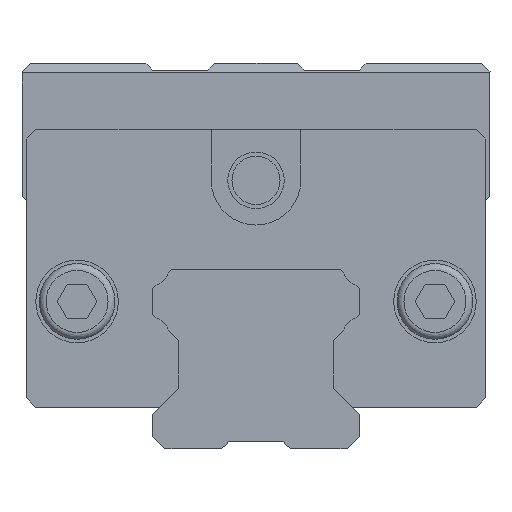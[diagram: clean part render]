
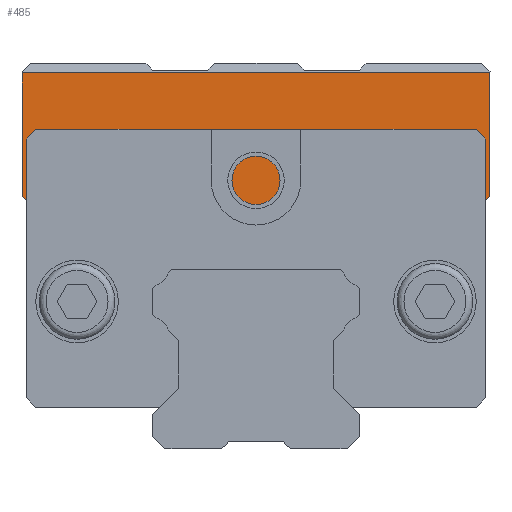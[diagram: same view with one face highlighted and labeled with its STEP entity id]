
A CAD part, front view. The second image highlights one B-rep face of the part: STEP entity #485.
In plain terms, the highlighted planar face has unit normal (0, -1, 0).
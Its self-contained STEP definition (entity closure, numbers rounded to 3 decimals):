
#485 = ADVANCED_FACE( '', ( #1084 ), #1085, .F. );
#1084 = FACE_OUTER_BOUND( '', #1870, .T. );
#1085 = PLANE( '', #1871 );
#1870 = EDGE_LOOP( '', ( #2944, #2945, #2946, #2947, #2948, #2949, #2950, #2951, #2952, #2953, #2954, #2955, #2956, #2957, #2958, #2959, #2960, #2961, #2962, #2963, #2964, #2965 ) );
#1871 = AXIS2_PLACEMENT_3D( '', #2966, #2967, #2968 );
#2944 = ORIENTED_EDGE( '', *, *, #5478, .T. );
#2945 = ORIENTED_EDGE( '', *, *, #5589, .T. );
#2946 = ORIENTED_EDGE( '', *, *, #5610, .T. );
#2947 = ORIENTED_EDGE( '', *, *, #5532, .T. );
#2948 = ORIENTED_EDGE( '', *, *, #5617, .T. );
#2949 = ORIENTED_EDGE( '', *, *, #5618, .T. );
#2950 = ORIENTED_EDGE( '', *, *, #5619, .T. );
#2951 = ORIENTED_EDGE( '', *, *, #5620, .T. );
#2952 = ORIENTED_EDGE( '', *, *, #5621, .T. );
#2953 = ORIENTED_EDGE( '', *, *, #5622, .T. );
#2954 = ORIENTED_EDGE( '', *, *, #5623, .T. );
#2955 = ORIENTED_EDGE( '', *, *, #5624, .T. );
#2956 = ORIENTED_EDGE( '', *, *, #5625, .T. );
#2957 = ORIENTED_EDGE( '', *, *, #5615, .T. );
#2958 = ORIENTED_EDGE( '', *, *, #5626, .T. );
#2959 = ORIENTED_EDGE( '', *, *, #5627, .T. );
#2960 = ORIENTED_EDGE( '', *, *, #5628, .T. );
#2961 = ORIENTED_EDGE( '', *, *, #5629, .T. );
#2962 = ORIENTED_EDGE( '', *, *, #5630, .T. );
#2963 = ORIENTED_EDGE( '', *, *, #5631, .T. );
#2964 = ORIENTED_EDGE( '', *, *, #5632, .T. );
#2965 = ORIENTED_EDGE( '', *, *, #5633, .T. );
#2966 = CARTESIAN_POINT( '', ( -11.278, -30.4, 10.7 ) );
#2967 = DIRECTION( '', ( 0., 1., 0. ) );
#2968 = DIRECTION( '', ( 1., 0., 0. ) );
#5478 = EDGE_CURVE( '', #6333, #6331, #6334, .T. );
#5532 = EDGE_CURVE( '', #6441, #6439, #6442, .T. );
#5589 = EDGE_CURVE( '', #6331, #6533, #6535, .T. );
#5610 = EDGE_CURVE( '', #6533, #6441, #6573, .T. );
#5615 = EDGE_CURVE( '', #6581, #6579, #6582, .T. );
#5617 = EDGE_CURVE( '', #6439, #6584, #6585, .T. );
#5618 = EDGE_CURVE( '', #6584, #6586, #6587, .T. );
#5619 = EDGE_CURVE( '', #6586, #6588, #6589, .T. );
#5620 = EDGE_CURVE( '', #6588, #6590, #6591, .T. );
#5621 = EDGE_CURVE( '', #6590, #6592, #6593, .T. );
#5622 = EDGE_CURVE( '', #6592, #6594, #6595, .T. );
#5623 = EDGE_CURVE( '', #6594, #6596, #6597, .T. );
#5624 = EDGE_CURVE( '', #6596, #6598, #6599, .T. );
#5625 = EDGE_CURVE( '', #6598, #6581, #6600, .T. );
#5626 = EDGE_CURVE( '', #6579, #6601, #6602, .T. );
#5627 = EDGE_CURVE( '', #6601, #6603, #6604, .T. );
#5628 = EDGE_CURVE( '', #6603, #6605, #6606, .T. );
#5629 = EDGE_CURVE( '', #6605, #6607, #6608, .T. );
#5630 = EDGE_CURVE( '', #6607, #6609, #6610, .T. );
#5631 = EDGE_CURVE( '', #6609, #6611, #6612, .T. );
#5632 = EDGE_CURVE( '', #6611, #6613, #6614, .T. );
#5633 = EDGE_CURVE( '', #6613, #6333, #6615, .T. );
#6331 = VERTEX_POINT( '', #7612 );
#6333 = VERTEX_POINT( '', #7615 );
#6334 = LINE( '', #7616, #7617 );
#6439 = VERTEX_POINT( '', #7929 );
#6441 = VERTEX_POINT( '', #7932 );
#6442 = LINE( '', #7933, #7934 );
#6533 = VERTEX_POINT( '', #8078 );
#6535 = LINE( '', #8081, #8082 );
#6573 = LINE( '', #8140, #8141 );
#6579 = VERTEX_POINT( '', #8148 );
#6581 = VERTEX_POINT( '', #8151 );
#6582 = LINE( '', #8152, #8153 );
#6584 = VERTEX_POINT( '', #8156 );
#6585 = LINE( '', #8157, #8158 );
#6586 = VERTEX_POINT( '', #8159 );
#6587 = LINE( '', #8160, #8161 );
#6588 = VERTEX_POINT( '', #8162 );
#6589 = LINE( '', #8163, #8164 );
#6590 = VERTEX_POINT( '', #8165 );
#6591 = LINE( '', #8166, #8167 );
#6592 = VERTEX_POINT( '', #8168 );
#6593 = LINE( '', #8169, #8170 );
#6594 = VERTEX_POINT( '', #8171 );
#6595 = LINE( '', #8172, #8173 );
#6596 = VERTEX_POINT( '', #8174 );
#6597 = LINE( '', #8175, #8176 );
#6598 = VERTEX_POINT( '', #8177 );
#6599 = LINE( '', #8178, #8179 );
#6600 = LINE( '', #8180, #8181 );
#6601 = VERTEX_POINT( '', #8182 );
#6602 = LINE( '', #8183, #8184 );
#6603 = VERTEX_POINT( '', #8185 );
#6604 = LINE( '', #8186, #8187 );
#6605 = VERTEX_POINT( '', #8188 );
#6606 = LINE( '', #8189, #8190 );
#6607 = VERTEX_POINT( '', #8191 );
#6608 = LINE( '', #8192, #8193 );
#6609 = VERTEX_POINT( '', #8194 );
#6610 = LINE( '', #8195, #8196 );
#6611 = VERTEX_POINT( '', #8197 );
#6612 = LINE( '', #8198, #8199 );
#6613 = VERTEX_POINT( '', #8200 );
#6614 = LINE( '', #8201, #8202 );
#6615 = LINE( '', #8203, #8204 );
#7612 = CARTESIAN_POINT( '', ( 17., -30.4, 27.3 ) );
#7615 = CARTESIAN_POINT( '', ( 17., -30.4, 18.3 ) );
#7616 = CARTESIAN_POINT( '', ( 17., -30.4, 18.3 ) );
#7617 = VECTOR( '', #9910, 1000. );
#7929 = CARTESIAN_POINT( '', ( -16.7, -30.4, 18. ) );
#7932 = CARTESIAN_POINT( '', ( -17., -30.4, 18.3 ) );
#7933 = CARTESIAN_POINT( '', ( -16.7, -30.4, 18. ) );
#7934 = VECTOR( '', #9952, 1000. );
#8078 = CARTESIAN_POINT( '', ( -17., -30.4, 27.3 ) );
#8081 = CARTESIAN_POINT( '', ( -11.278, -30.4, 27.3 ) );
#8082 = VECTOR( '', #10013, 1000. );
#8140 = CARTESIAN_POINT( '', ( -17., -30.4, 18.3 ) );
#8141 = VECTOR( '', #10034, 1000. );
#8148 = CARTESIAN_POINT( '', ( 9.5, -30.4, 12.478 ) );
#8151 = CARTESIAN_POINT( '', ( 6.978, -30.4, 15. ) );
#8152 = CARTESIAN_POINT( '', ( 9.5, -30.4, 12.478 ) );
#8153 = VECTOR( '', #10043, 1000. );
#8156 = CARTESIAN_POINT( '', ( -16.7, -30.4, 3.7 ) );
#8157 = CARTESIAN_POINT( '', ( -16.7, -30.4, 3.7 ) );
#8158 = VECTOR( '', #10045, 1000. );
#8159 = CARTESIAN_POINT( '', ( -16., -30.4, 3. ) );
#8160 = CARTESIAN_POINT( '', ( -16.7, -30.4, 3.7 ) );
#8161 = VECTOR( '', #10046, 1000. );
#8162 = CARTESIAN_POINT( '', ( -9.6, -30.4, 3. ) );
#8163 = CARTESIAN_POINT( '', ( -9.6, -30.4, 3. ) );
#8164 = VECTOR( '', #10047, 1000. );
#8165 = CARTESIAN_POINT( '', ( -7.6, -30.4, 5. ) );
#8166 = CARTESIAN_POINT( '', ( -7.6, -30.4, 5. ) );
#8167 = VECTOR( '', #10048, 1000. );
#8168 = CARTESIAN_POINT( '', ( -7.6, -30.4, 7.022 ) );
#8169 = CARTESIAN_POINT( '', ( -7.6, -30.4, 7.022 ) );
#8170 = VECTOR( '', #10049, 1000. );
#8171 = CARTESIAN_POINT( '', ( -9.5, -30.4, 8.922 ) );
#8172 = CARTESIAN_POINT( '', ( -9.5, -30.4, 8.922 ) );
#8173 = VECTOR( '', #10050, 1000. );
#8174 = CARTESIAN_POINT( '', ( -9.5, -30.4, 12.478 ) );
#8175 = CARTESIAN_POINT( '', ( -9.5, -30.4, 8.922 ) );
#8176 = VECTOR( '', #10051, 1000. );
#8177 = CARTESIAN_POINT( '', ( -6.978, -30.4, 15. ) );
#8178 = CARTESIAN_POINT( '', ( -9.5, -30.4, 12.478 ) );
#8179 = VECTOR( '', #10052, 1000. );
#8180 = CARTESIAN_POINT( '', ( -6.978, -30.4, 15. ) );
#8181 = VECTOR( '', #10053, 1000. );
#8182 = CARTESIAN_POINT( '', ( 9.5, -30.4, 8.922 ) );
#8183 = CARTESIAN_POINT( '', ( 9.5, -30.4, 8.922 ) );
#8184 = VECTOR( '', #10054, 1000. );
#8185 = CARTESIAN_POINT( '', ( 7.6, -30.4, 7.022 ) );
#8186 = CARTESIAN_POINT( '', ( 9.5, -30.4, 8.922 ) );
#8187 = VECTOR( '', #10055, 1000. );
#8188 = CARTESIAN_POINT( '', ( 7.6, -30.4, 5. ) );
#8189 = CARTESIAN_POINT( '', ( 7.6, -30.4, 7.022 ) );
#8190 = VECTOR( '', #10056, 1000. );
#8191 = CARTESIAN_POINT( '', ( 9.6, -30.4, 3. ) );
#8192 = CARTESIAN_POINT( '', ( 9.6, -30.4, 3. ) );
#8193 = VECTOR( '', #10057, 1000. );
#8194 = CARTESIAN_POINT( '', ( 16., -30.4, 3. ) );
#8195 = CARTESIAN_POINT( '', ( 9.6, -30.4, 3. ) );
#8196 = VECTOR( '', #10058, 1000. );
#8197 = CARTESIAN_POINT( '', ( 16.7, -30.4, 3.7 ) );
#8198 = CARTESIAN_POINT( '', ( 16.7, -30.4, 3.7 ) );
#8199 = VECTOR( '', #10059, 1000. );
#8200 = CARTESIAN_POINT( '', ( 16.7, -30.4, 18. ) );
#8201 = CARTESIAN_POINT( '', ( 16.7, -30.4, 3.7 ) );
#8202 = VECTOR( '', #10060, 1000. );
#8203 = CARTESIAN_POINT( '', ( 16.7, -30.4, 18. ) );
#8204 = VECTOR( '', #10061, 1000. );
#9910 = DIRECTION( '', ( 0., 0., 1. ) );
#9952 = DIRECTION( '', ( 0.707, 0., -0.707 ) );
#10013 = DIRECTION( '', ( -1., 0., 0. ) );
#10034 = DIRECTION( '', ( 0., 0., -1. ) );
#10043 = DIRECTION( '', ( 0.707, 0., -0.707 ) );
#10045 = DIRECTION( '', ( 0., 0., -1. ) );
#10046 = DIRECTION( '', ( 0.707, 0., -0.707 ) );
#10047 = DIRECTION( '', ( 1., 0., 0. ) );
#10048 = DIRECTION( '', ( 0.707, 0., 0.707 ) );
#10049 = DIRECTION( '', ( 0., 0., 1. ) );
#10050 = DIRECTION( '', ( -0.707, 0., 0.707 ) );
#10051 = DIRECTION( '', ( 0., 0., 1. ) );
#10052 = DIRECTION( '', ( 0.707, 0., 0.707 ) );
#10053 = DIRECTION( '', ( 1., 0., 0. ) );
#10054 = DIRECTION( '', ( 0., 0., -1. ) );
#10055 = DIRECTION( '', ( -0.707, 0., -0.707 ) );
#10056 = DIRECTION( '', ( 0., 0., -1. ) );
#10057 = DIRECTION( '', ( 0.707, 0., -0.707 ) );
#10058 = DIRECTION( '', ( 1., 0., 0. ) );
#10059 = DIRECTION( '', ( 0.707, 0., 0.707 ) );
#10060 = DIRECTION( '', ( 0., 0., 1. ) );
#10061 = DIRECTION( '', ( 0.707, 0., 0.707 ) );
